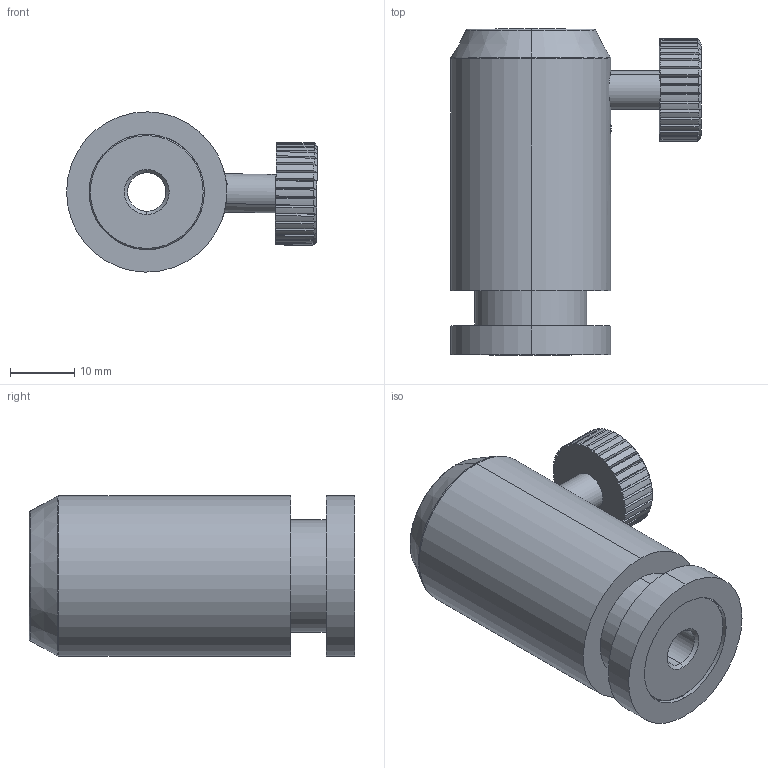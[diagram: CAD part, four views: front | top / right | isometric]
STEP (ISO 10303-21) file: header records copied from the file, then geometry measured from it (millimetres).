
FILE_DESCRIPTION (( 'STEP AP203' ), '1' );
FILE_NAME ('PHF-2.STEP', '2016-11-29T09:07:54', ( '' ), ( '' ), 'SwSTEP 2.0', 'SolidWorks 2012', '' );
FILE_SCHEMA (( 'CONFIG_CONTROL_DESIGN' ));
Length unit declared in the file: millimetre
Products named in the file (1): PHF-2
Bounding box: 39.11 x 50.8 x 25 mm (x, y, z)
Volume: 18588.7 mm3; surface area: 9721.3 mm2
Topology: 6 solids, 6 shells, 221 faces, 579 edges, 378 vertices
Faces by surface type: plane 115, cylinder 82, cone 14, sphere 4, torus 4, bspline 2
Entity records: 9232 total; most frequent: CARTESIAN_POINT 3750, ORIENTED_EDGE 1148, DIRECTION 1099, EDGE_CURVE 574, AXIS2_PLACEMENT_3D 406, VERTEX_POINT 375, LINE 287, VECTOR 287
